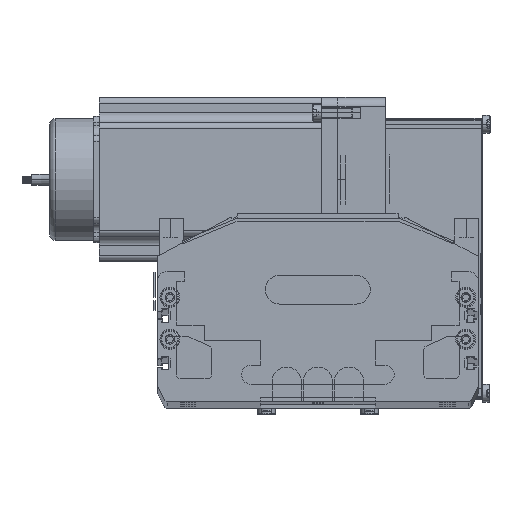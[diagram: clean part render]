
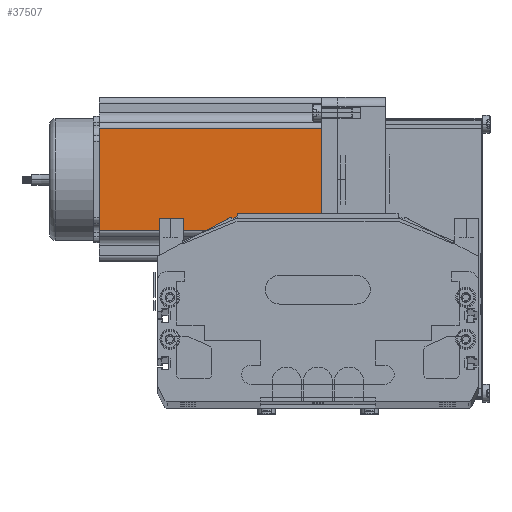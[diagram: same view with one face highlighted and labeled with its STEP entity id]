
A CAD part, top view. The second image highlights one B-rep face of the part: STEP entity #37507.
In plain terms, the highlighted planar face has unit normal (0, 0, 1) as drawn and (0, -1, 0) by its records, which use the part's own axes.
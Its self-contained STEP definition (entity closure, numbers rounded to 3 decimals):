
#737 = FACE_OUTER_BOUND ( 'NONE', #37630, .T. ) ;
#740 = DIRECTION ( 'NONE',  ( 0., 0., 1. ) ) ;
#999 = AXIS2_PLACEMENT_3D ( 'NONE', #1078, #1077, #740 ) ;
#1007 = PLANE ( 'NONE',  #999 ) ;
#1077 = DIRECTION ( 'NONE',  ( 0., 1., 0. ) ) ;
#1078 = CARTESIAN_POINT ( 'NONE',  ( 0., 0., 116.5 ) ) ;
#1360 = CARTESIAN_POINT ( 'NONE',  ( 16.16, 0., 0. ) ) ;
#1435 = CARTESIAN_POINT ( 'NONE',  ( 69.74, 0., 0. ) ) ;
#1495 = DIRECTION ( 'NONE',  ( 1., 0., 0. ) ) ;
#1496 = VECTOR ( 'NONE', #1495, 1000. ) ;
#1497 = CARTESIAN_POINT ( 'NONE',  ( 0., 0., 0. ) ) ;
#1498 = LINE ( 'NONE', #1497, #1496 ) ;
#1504 = LINE ( 'NONE', #1513, #1508 ) ;
#1508 = VECTOR ( 'NONE', #1542, 1000. ) ;
#1513 = CARTESIAN_POINT ( 'NONE',  ( 16.16, 0., 116.5 ) ) ;
#1533 = CARTESIAN_POINT ( 'NONE',  ( 69.74, 0., 116.5 ) ) ;
#1542 = DIRECTION ( 'NONE',  ( 0., 0., -1. ) ) ;
#36950 = ORIENTED_EDGE ( 'NONE', *, *, #37451, .T. ) ;
#37451 = EDGE_CURVE ( 'NONE', #37504, #37505, #1498, .T. ) ;
#37489 = VERTEX_POINT ( 'NONE', #1533 ) ;
#37494 = EDGE_CURVE ( 'NONE', #37649, #37504, #1504, .T. ) ;
#37498 = ORIENTED_EDGE ( 'NONE', *, *, #37494, .T. ) ;
#37504 = VERTEX_POINT ( 'NONE', #1360 ) ;
#37505 = VERTEX_POINT ( 'NONE', #1435 ) ;
#37507 = ADVANCED_FACE ( 'NONE', ( #737 ), #1007, .F. ) ;
#37508 = ORIENTED_EDGE ( 'NONE', *, *, #37648, .F. ) ;
#37630 = EDGE_LOOP ( 'NONE', ( #36950, #37644, #37508, #37498 ) ) ;
#37644 = ORIENTED_EDGE ( 'NONE', *, *, #37645, .T. ) ;
#37645 = EDGE_CURVE ( 'NONE', #37505, #37489, #50543, .T. ) ;
#37648 = EDGE_CURVE ( 'NONE', #37649, #37489, #50756, .T. ) ;
#37649 = VERTEX_POINT ( 'NONE', #50823 ) ;
#50543 = LINE ( 'NONE', #50682, #50680 ) ;
#50678 = DIRECTION ( 'NONE',  ( 0., 0., 1. ) ) ;
#50680 = VECTOR ( 'NONE', #50678, 1000. ) ;
#50682 = CARTESIAN_POINT ( 'NONE',  ( 69.74, 0., 116.5 ) ) ;
#50755 = CARTESIAN_POINT ( 'NONE',  ( 0., 0., 116.5 ) ) ;
#50756 = LINE ( 'NONE', #50755, #50836 ) ;
#50823 = CARTESIAN_POINT ( 'NONE',  ( 16.16, 0., 116.5 ) ) ;
#50834 = DIRECTION ( 'NONE',  ( 1., 0., 0. ) ) ;
#50836 = VECTOR ( 'NONE', #50834, 1000. ) ;
